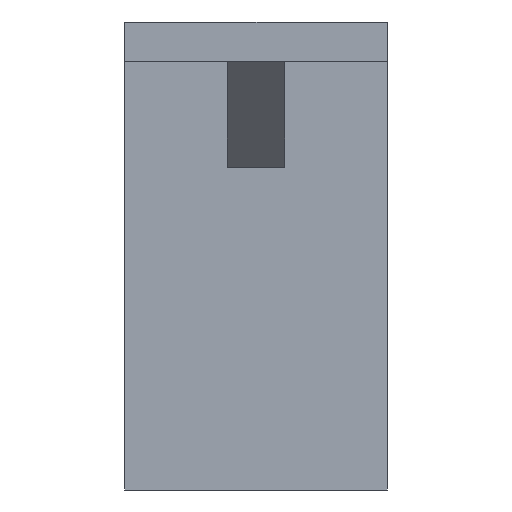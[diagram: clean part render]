
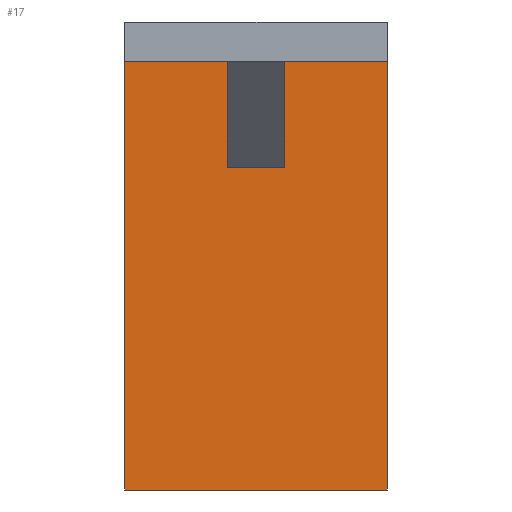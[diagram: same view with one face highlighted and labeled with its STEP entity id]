
A CAD part, left-side view. The second image highlights one B-rep face of the part: STEP entity #17.
In plain terms, the highlighted planar face has unit normal (-1, 0, 0).
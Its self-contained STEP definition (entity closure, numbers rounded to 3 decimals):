
#17 = ADVANCED_FACE('',(#18),#32,.F.);
#18 = FACE_BOUND('',#19,.F.);
#19 = EDGE_LOOP('',(#20,#55,#83,#111,#137,#165,#193,#221));
#20 = ORIENTED_EDGE('',*,*,#21,.F.);
#21 = EDGE_CURVE('',#22,#24,#26,.T.);
#22 = VERTEX_POINT('',#23);
#23 = CARTESIAN_POINT('',(0.,-20.,0.));
#24 = VERTEX_POINT('',#25);
#25 = CARTESIAN_POINT('',(0.,-20.,65.4));
#26 = SURFACE_CURVE('',#27,(#31,#43),.PCURVE_S1.);
#27 = LINE('',#28,#29);
#28 = CARTESIAN_POINT('',(0.,-20.,0.));
#29 = VECTOR('',#30,1.);
#30 = DIRECTION('',(0.,0.,1.));
#31 = PCURVE('',#32,#37);
#32 = PLANE('',#33);
#33 = AXIS2_PLACEMENT_3D('',#34,#35,#36);
#34 = CARTESIAN_POINT('',(0.,-20.,0.));
#35 = DIRECTION('',(1.,0.,0.));
#36 = DIRECTION('',(0.,0.,1.));
#37 = DEFINITIONAL_REPRESENTATION('',(#38),#42);
#38 = LINE('',#39,#40);
#39 = CARTESIAN_POINT('',(0.,0.));
#40 = VECTOR('',#41,1.);
#41 = DIRECTION('',(1.,0.));
#42 = ( GEOMETRIC_REPRESENTATION_CONTEXT(2) 
PARAMETRIC_REPRESENTATION_CONTEXT() REPRESENTATION_CONTEXT('2D SPACE',''
  ) );
#43 = PCURVE('',#44,#49);
#44 = PLANE('',#45);
#45 = AXIS2_PLACEMENT_3D('',#46,#47,#48);
#46 = CARTESIAN_POINT('',(0.,-20.,0.));
#47 = DIRECTION('',(0.,1.,0.));
#48 = DIRECTION('',(0.,0.,1.));
#49 = DEFINITIONAL_REPRESENTATION('',(#50),#54);
#50 = LINE('',#51,#52);
#51 = CARTESIAN_POINT('',(0.,0.));
#52 = VECTOR('',#53,1.);
#53 = DIRECTION('',(1.,0.));
#54 = ( GEOMETRIC_REPRESENTATION_CONTEXT(2) 
PARAMETRIC_REPRESENTATION_CONTEXT() REPRESENTATION_CONTEXT('2D SPACE',''
  ) );
#55 = ORIENTED_EDGE('',*,*,#56,.T.);
#56 = EDGE_CURVE('',#22,#57,#59,.T.);
#57 = VERTEX_POINT('',#58);
#58 = CARTESIAN_POINT('',(0.,20.,0.));
#59 = SURFACE_CURVE('',#60,(#64,#71),.PCURVE_S1.);
#60 = LINE('',#61,#62);
#61 = CARTESIAN_POINT('',(0.,-20.,0.));
#62 = VECTOR('',#63,1.);
#63 = DIRECTION('',(0.,1.,0.));
#64 = PCURVE('',#32,#65);
#65 = DEFINITIONAL_REPRESENTATION('',(#66),#70);
#66 = LINE('',#67,#68);
#67 = CARTESIAN_POINT('',(0.,0.));
#68 = VECTOR('',#69,1.);
#69 = DIRECTION('',(0.,-1.));
#70 = ( GEOMETRIC_REPRESENTATION_CONTEXT(2) 
PARAMETRIC_REPRESENTATION_CONTEXT() REPRESENTATION_CONTEXT('2D SPACE',''
  ) );
#71 = PCURVE('',#72,#77);
#72 = PLANE('',#73);
#73 = AXIS2_PLACEMENT_3D('',#74,#75,#76);
#74 = CARTESIAN_POINT('',(0.,-20.,0.));
#75 = DIRECTION('',(0.,0.,1.));
#76 = DIRECTION('',(1.,0.,0.));
#77 = DEFINITIONAL_REPRESENTATION('',(#78),#82);
#78 = LINE('',#79,#80);
#79 = CARTESIAN_POINT('',(0.,0.));
#80 = VECTOR('',#81,1.);
#81 = DIRECTION('',(0.,1.));
#82 = ( GEOMETRIC_REPRESENTATION_CONTEXT(2) 
PARAMETRIC_REPRESENTATION_CONTEXT() REPRESENTATION_CONTEXT('2D SPACE',''
  ) );
#83 = ORIENTED_EDGE('',*,*,#84,.F.);
#84 = EDGE_CURVE('',#85,#57,#87,.T.);
#85 = VERTEX_POINT('',#86);
#86 = CARTESIAN_POINT('',(0.,20.,65.4));
#87 = SURFACE_CURVE('',#88,(#92,#99),.PCURVE_S1.);
#88 = LINE('',#89,#90);
#89 = CARTESIAN_POINT('',(0.,20.,71.4));
#90 = VECTOR('',#91,1.);
#91 = DIRECTION('',(0.,0.,-1.));
#92 = PCURVE('',#32,#93);
#93 = DEFINITIONAL_REPRESENTATION('',(#94),#98);
#94 = LINE('',#95,#96);
#95 = CARTESIAN_POINT('',(71.4,-40.));
#96 = VECTOR('',#97,1.);
#97 = DIRECTION('',(-1.,0.));
#98 = ( GEOMETRIC_REPRESENTATION_CONTEXT(2) 
PARAMETRIC_REPRESENTATION_CONTEXT() REPRESENTATION_CONTEXT('2D SPACE',''
  ) );
#99 = PCURVE('',#100,#105);
#100 = PLANE('',#101);
#101 = AXIS2_PLACEMENT_3D('',#102,#103,#104);
#102 = CARTESIAN_POINT('',(0.,20.,0.));
#103 = DIRECTION('',(0.,1.,0.));
#104 = DIRECTION('',(0.,0.,1.));
#105 = DEFINITIONAL_REPRESENTATION('',(#106),#110);
#106 = LINE('',#107,#108);
#107 = CARTESIAN_POINT('',(71.4,0.));
#108 = VECTOR('',#109,1.);
#109 = DIRECTION('',(-1.,0.));
#110 = ( GEOMETRIC_REPRESENTATION_CONTEXT(2) 
PARAMETRIC_REPRESENTATION_CONTEXT() REPRESENTATION_CONTEXT('2D SPACE',''
  ) );
#111 = ORIENTED_EDGE('',*,*,#112,.T.);
#112 = EDGE_CURVE('',#85,#113,#115,.T.);
#113 = VERTEX_POINT('',#114);
#114 = CARTESIAN_POINT('',(0.,4.4,65.4));
#115 = SURFACE_CURVE('',#116,(#120,#126),.PCURVE_S1.);
#116 = LINE('',#117,#118);
#117 = CARTESIAN_POINT('',(0.,-20.,65.4));
#118 = VECTOR('',#119,1.);
#119 = DIRECTION('',(0.,-1.,0.));
#120 = PCURVE('',#32,#121);
#121 = DEFINITIONAL_REPRESENTATION('',(#122),#125);
#122 = B_SPLINE_CURVE_WITH_KNOTS('',1,(#123,#124),.UNSPECIFIED.,.F.,.F.,
  (2,2),(-40.,0.),.PIECEWISE_BEZIER_KNOTS.);
#123 = CARTESIAN_POINT('',(65.4,-40.));
#124 = CARTESIAN_POINT('',(65.4,0.));
#125 = ( GEOMETRIC_REPRESENTATION_CONTEXT(2) 
PARAMETRIC_REPRESENTATION_CONTEXT() REPRESENTATION_CONTEXT('2D SPACE',''
  ) );
#126 = PCURVE('',#127,#132);
#127 = PLANE('',#128);
#128 = AXIS2_PLACEMENT_3D('',#129,#130,#131);
#129 = CARTESIAN_POINT('',(-49.4,-20.,65.4));
#130 = DIRECTION('',(0.,0.,1.));
#131 = DIRECTION('',(1.,0.,0.));
#132 = DEFINITIONAL_REPRESENTATION('',(#133),#136);
#133 = B_SPLINE_CURVE_WITH_KNOTS('',1,(#134,#135),.UNSPECIFIED.,.F.,.F.,
  (2,2),(-40.,0.),.PIECEWISE_BEZIER_KNOTS.);
#134 = CARTESIAN_POINT('',(49.4,40.));
#135 = CARTESIAN_POINT('',(49.4,0.));
#136 = ( GEOMETRIC_REPRESENTATION_CONTEXT(2) 
PARAMETRIC_REPRESENTATION_CONTEXT() REPRESENTATION_CONTEXT('2D SPACE',''
  ) );
#137 = ORIENTED_EDGE('',*,*,#138,.F.);
#138 = EDGE_CURVE('',#139,#113,#141,.T.);
#139 = VERTEX_POINT('',#140);
#140 = CARTESIAN_POINT('',(0.,4.4,49.24));
#141 = SURFACE_CURVE('',#142,(#146,#153),.PCURVE_S1.);
#142 = LINE('',#143,#144);
#143 = CARTESIAN_POINT('',(0.,4.4,49.24));
#144 = VECTOR('',#145,1.);
#145 = DIRECTION('',(0.,0.,1.));
#146 = PCURVE('',#32,#147);
#147 = DEFINITIONAL_REPRESENTATION('',(#148),#152);
#148 = LINE('',#149,#150);
#149 = CARTESIAN_POINT('',(49.24,-24.4));
#150 = VECTOR('',#151,1.);
#151 = DIRECTION('',(1.,0.));
#152 = ( GEOMETRIC_REPRESENTATION_CONTEXT(2) 
PARAMETRIC_REPRESENTATION_CONTEXT() REPRESENTATION_CONTEXT('2D SPACE',''
  ) );
#153 = PCURVE('',#154,#159);
#154 = PLANE('',#155);
#155 = AXIS2_PLACEMENT_3D('',#156,#157,#158);
#156 = CARTESIAN_POINT('',(-5.713,4.4,59.687));
#157 = DIRECTION('',(-0.,-1.,-0.));
#158 = DIRECTION('',(0.,0.,-1.));
#159 = DEFINITIONAL_REPRESENTATION('',(#160),#164);
#160 = LINE('',#161,#162);
#161 = CARTESIAN_POINT('',(10.447,5.713));
#162 = VECTOR('',#163,1.);
#163 = DIRECTION('',(-1.,0.));
#164 = ( GEOMETRIC_REPRESENTATION_CONTEXT(2) 
PARAMETRIC_REPRESENTATION_CONTEXT() REPRESENTATION_CONTEXT('2D SPACE',''
  ) );
#165 = ORIENTED_EDGE('',*,*,#166,.F.);
#166 = EDGE_CURVE('',#167,#139,#169,.T.);
#167 = VERTEX_POINT('',#168);
#168 = CARTESIAN_POINT('',(0.,-4.4,49.24));
#169 = SURFACE_CURVE('',#170,(#174,#181),.PCURVE_S1.);
#170 = LINE('',#171,#172);
#171 = CARTESIAN_POINT('',(0.,-4.4,49.24));
#172 = VECTOR('',#173,1.);
#173 = DIRECTION('',(-0.,1.,-0.));
#174 = PCURVE('',#32,#175);
#175 = DEFINITIONAL_REPRESENTATION('',(#176),#180);
#176 = LINE('',#177,#178);
#177 = CARTESIAN_POINT('',(49.24,-15.6));
#178 = VECTOR('',#179,1.);
#179 = DIRECTION('',(0.,-1.));
#180 = ( GEOMETRIC_REPRESENTATION_CONTEXT(2) 
PARAMETRIC_REPRESENTATION_CONTEXT() REPRESENTATION_CONTEXT('2D SPACE',''
  ) );
#181 = PCURVE('',#182,#187);
#182 = PLANE('',#183);
#183 = AXIS2_PLACEMENT_3D('',#184,#185,#186);
#184 = CARTESIAN_POINT('',(-16.16,-4.4,65.4));
#185 = DIRECTION('',(-0.707,-0.,-0.707));
#186 = DIRECTION('',(0.707,0.,-0.707));
#187 = DEFINITIONAL_REPRESENTATION('',(#188),#192);
#188 = LINE('',#189,#190);
#189 = CARTESIAN_POINT('',(22.854,0.));
#190 = VECTOR('',#191,1.);
#191 = DIRECTION('',(0.,-1.));
#192 = ( GEOMETRIC_REPRESENTATION_CONTEXT(2) 
PARAMETRIC_REPRESENTATION_CONTEXT() REPRESENTATION_CONTEXT('2D SPACE',''
  ) );
#193 = ORIENTED_EDGE('',*,*,#194,.T.);
#194 = EDGE_CURVE('',#167,#195,#197,.T.);
#195 = VERTEX_POINT('',#196);
#196 = CARTESIAN_POINT('',(0.,-4.4,65.4));
#197 = SURFACE_CURVE('',#198,(#202,#209),.PCURVE_S1.);
#198 = LINE('',#199,#200);
#199 = CARTESIAN_POINT('',(0.,-4.4,49.24));
#200 = VECTOR('',#201,1.);
#201 = DIRECTION('',(0.,0.,1.));
#202 = PCURVE('',#32,#203);
#203 = DEFINITIONAL_REPRESENTATION('',(#204),#208);
#204 = LINE('',#205,#206);
#205 = CARTESIAN_POINT('',(49.24,-15.6));
#206 = VECTOR('',#207,1.);
#207 = DIRECTION('',(1.,0.));
#208 = ( GEOMETRIC_REPRESENTATION_CONTEXT(2) 
PARAMETRIC_REPRESENTATION_CONTEXT() REPRESENTATION_CONTEXT('2D SPACE',''
  ) );
#209 = PCURVE('',#210,#215);
#210 = PLANE('',#211);
#211 = AXIS2_PLACEMENT_3D('',#212,#213,#214);
#212 = CARTESIAN_POINT('',(-5.713,-4.4,59.687));
#213 = DIRECTION('',(-0.,-1.,-0.));
#214 = DIRECTION('',(0.,0.,-1.));
#215 = DEFINITIONAL_REPRESENTATION('',(#216),#220);
#216 = LINE('',#217,#218);
#217 = CARTESIAN_POINT('',(10.447,5.713));
#218 = VECTOR('',#219,1.);
#219 = DIRECTION('',(-1.,0.));
#220 = ( GEOMETRIC_REPRESENTATION_CONTEXT(2) 
PARAMETRIC_REPRESENTATION_CONTEXT() REPRESENTATION_CONTEXT('2D SPACE',''
  ) );
#221 = ORIENTED_EDGE('',*,*,#222,.T.);
#222 = EDGE_CURVE('',#195,#24,#223,.T.);
#223 = SURFACE_CURVE('',#224,(#228,#234),.PCURVE_S1.);
#224 = LINE('',#225,#226);
#225 = CARTESIAN_POINT('',(0.,-20.,65.4));
#226 = VECTOR('',#227,1.);
#227 = DIRECTION('',(0.,-1.,0.));
#228 = PCURVE('',#32,#229);
#229 = DEFINITIONAL_REPRESENTATION('',(#230),#233);
#230 = B_SPLINE_CURVE_WITH_KNOTS('',1,(#231,#232),.UNSPECIFIED.,.F.,.F.,
  (2,2),(-40.,0.),.PIECEWISE_BEZIER_KNOTS.);
#231 = CARTESIAN_POINT('',(65.4,-40.));
#232 = CARTESIAN_POINT('',(65.4,0.));
#233 = ( GEOMETRIC_REPRESENTATION_CONTEXT(2) 
PARAMETRIC_REPRESENTATION_CONTEXT() REPRESENTATION_CONTEXT('2D SPACE',''
  ) );
#234 = PCURVE('',#127,#235);
#235 = DEFINITIONAL_REPRESENTATION('',(#236),#239);
#236 = B_SPLINE_CURVE_WITH_KNOTS('',1,(#237,#238),.UNSPECIFIED.,.F.,.F.,
  (2,2),(-40.,0.),.PIECEWISE_BEZIER_KNOTS.);
#237 = CARTESIAN_POINT('',(49.4,40.));
#238 = CARTESIAN_POINT('',(49.4,0.));
#239 = ( GEOMETRIC_REPRESENTATION_CONTEXT(2) 
PARAMETRIC_REPRESENTATION_CONTEXT() REPRESENTATION_CONTEXT('2D SPACE',''
  ) );
